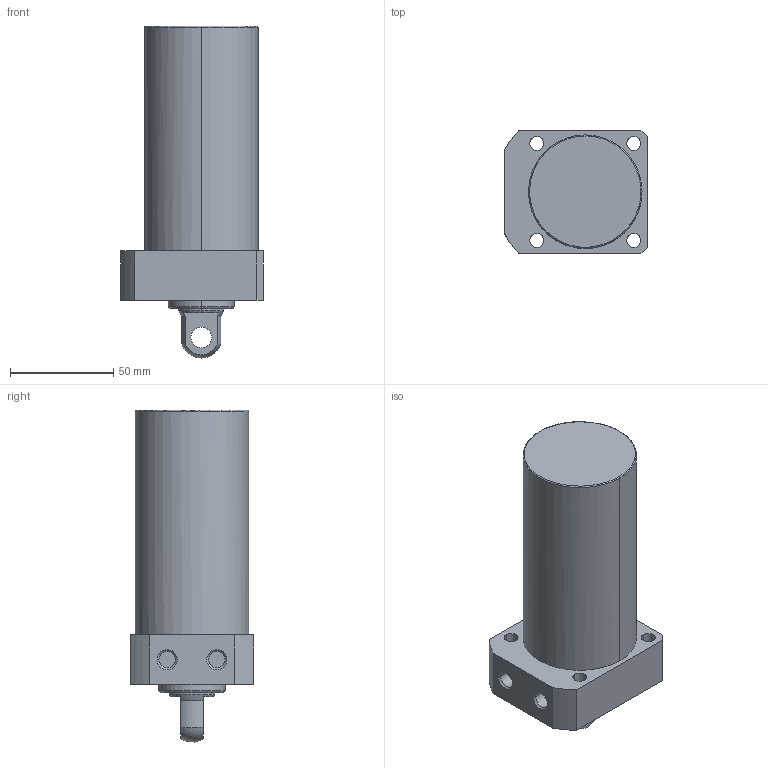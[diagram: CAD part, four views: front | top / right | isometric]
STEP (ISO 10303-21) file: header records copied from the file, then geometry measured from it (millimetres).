
FILE_DESCRIPTION((' '),'2;1');
FILE_NAME( 'TLLR-055CP-080.STEP.stp', '2025-10-24T16:34:50', (' '), ('--- Datakit www.datakit.com---'), ' Datakit CrossCadWare V2024.1 Dec 21 2023', 'Mastercam 2025', ' ');
FILE_SCHEMA(('AUTOMOTIVE_DESIGN { 1 0 10303 214 1 1 1 1 }'));
Length unit declared in the file: millimetre
Products named in the file (1): TLLR-055CP-080
Bounding box: 69 x 60 x 160.93 mm (x, y, z)
Volume: 358489.3 mm3; surface area: 37051.9 mm2
Topology: 1 solids, 1 shells, 57 faces, 164 edges, 116 vertices
Faces by surface type: cylinder 28, plane 18, cone 8, torus 2, sphere 1
Entity records: 2006 total; most frequent: DIRECTION 378, CARTESIAN_POINT 350, ORIENTED_EDGE 328, EDGE_CURVE 164, AXIS2_PLACEMENT_3D 160, VERTEX_POINT 116, CIRCLE 102, EDGE_LOOP 74
